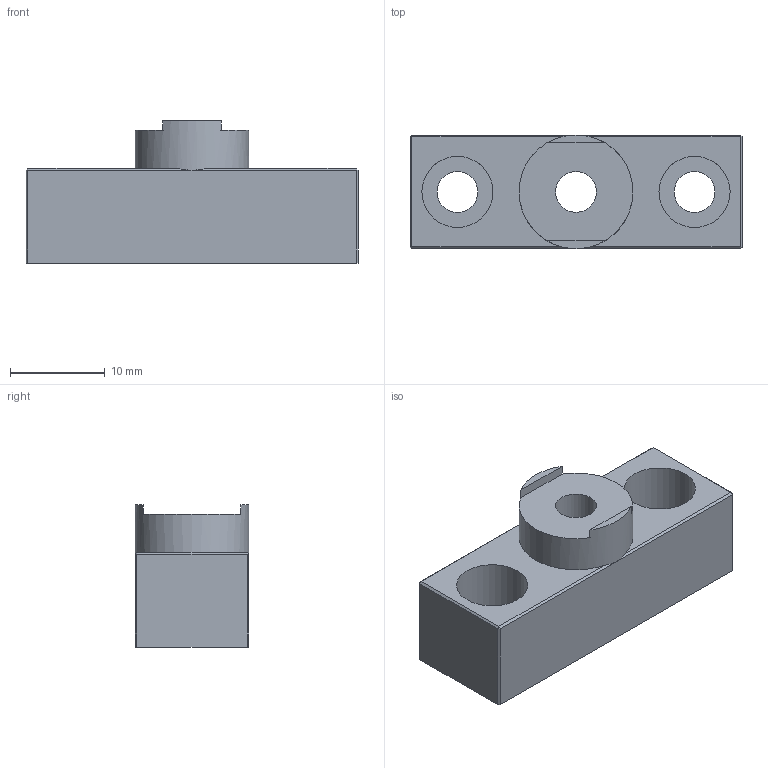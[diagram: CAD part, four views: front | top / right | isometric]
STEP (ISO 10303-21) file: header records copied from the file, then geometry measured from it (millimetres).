
FILE_DESCRIPTION(/* description */ (''),/* implementation_level */ '2;1');
FILE_NAME(/* name */ '',/* time_stamp */ '2025-12-08T17:42:38+08:00',/* author */ ('Q'),/* organization */ (''),/* preprocessor_version */ 'ST-DEVELOPER v20',/* originating_system */ 'Autodesk Inventor 2025',/* authorisation */ '');
FILE_SCHEMA (('AUTOMOTIVE_DESIGN { 1 0 10303 214 3 1 1 }'));
Length unit declared in the file: millimetre
Products named in the file (1): 透镜底座
Bounding box: 35 x 12 x 15 mm (x, y, z)
Volume: 3570 mm3; surface area: 2513.9 mm2
Topology: 1 solids, 1 shells, 36 faces, 79 edges, 48 vertices
Faces by surface type: plane 29, cylinder 7
Full cylindrical faces by diameter (mm): 4.3 x3, 7.5 x3, 12 x1
Entity records: 1030 total; most frequent: DIRECTION 177, CARTESIAN_POINT 164, ORIENTED_EDGE 158, EDGE_CURVE 79, AXIS2_PLACEMENT_3D 61, LINE 55, VECTOR 55, VERTEX_POINT 48
